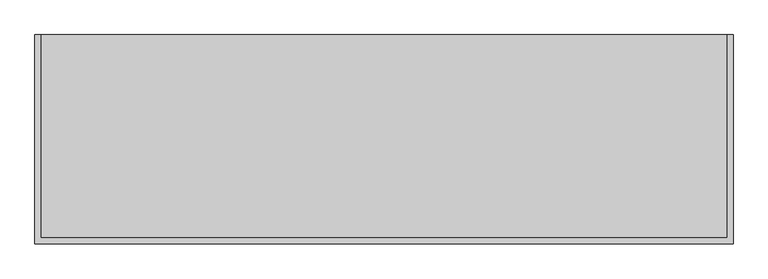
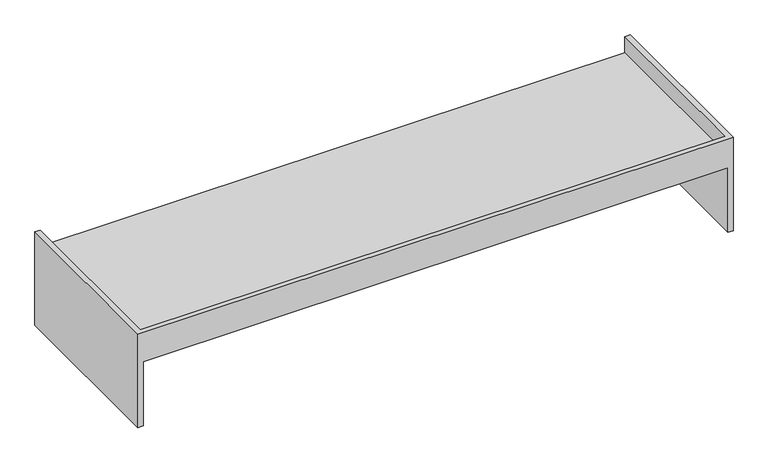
"""IFC4 building model written with IfcOpenShell, lengths in millimetres: furniture geometry, Mueble con faldon sin cajones - lavabo sobreponer : MB8-mueble baño colgado- 1.75cm."""

from ifc_helpers import new_model, si_unit, origin, place, context, project, spatial, faceted_brep, source, transform, mapped, element, save


def furniture_c1e19565(model_context):
    return source(origin(), model_context, "Body", "Brep", [
        faceted_brep([(-750.0, 595.0, 800.0), (-735.0, 595.0, 800.0), (-735.0, 595.0, 750.0), (985.0, 595.0, 750.0), (985.0, 595.0, 800.0), (1000.0, 595.0, 800.0), (1000.0, 595.0, 510.0), (-750.0, 595.0, 510.0), (-750.0, 70.0, 800.0), (1000.0, 70.0, 800.0), (985.0, 85.0, 800.0), (-735.0, 85.0, 800.0), (-735.0, 85.0, 750.0), (-750.0, 70.0, 510.0), (985.0, 85.0, 750.0), (-735.0, 70.0, 510.0), (-735.0, 70.0, 710.0), (985.0, 70.0, 710.0), (985.0, 70.0, 510.0), (1000.0, 70.0, 510.0), (985.0, 580.0, 510.0), (-735.0, 580.0, 510.0), (-735.0, 580.0, 710.0), (985.0, 580.0, 710.0)], [[[0, 1, 2, 3, 4, 5, 6, 7]], [[1, 0, 8, 9, 5, 4, 10, 11]], [[2, 1, 11, 12]], [[0, 7, 13, 8]], [[11, 10, 14, 12]], [[9, 8, 13, 15, 16, 17, 18, 19]], [[10, 4, 3, 14]], [[6, 5, 9, 19]], [[15, 13, 7, 6, 19, 18, 20, 21]], [[16, 15, 21, 22]], [[21, 20, 23, 22]], [[20, 18, 17, 23]], [[3, 2, 12, 14]], [[17, 16, 22, 23]]]),
    ])


if __name__ == "__main__":
    model = new_model("IFC4")
    model_context = context("Model", 3, world=origin())
    ifc_project = project(units=[si_unit("LENGTHUNIT", "METRE", prefix="MILLI")], contexts=[model_context])
    site = spatial("IfcSite", under=ifc_project)
    building = spatial("IfcBuilding", under=site)
    placement = place(None, origin())
    furniture_shape = furniture_c1e19565(model_context)
    element("IfcFurniture", 1, ObjectType="Mueble con faldon sin cajones - lavabo sobreponer : MB8-mueble baño colgado- 1.75cm", at=placement, inside=building, context=model_context, shape_type="MappedRepresentation", body=[
        mapped(furniture_shape, transform((0.0, 0.0, 0.0), x_axis=(1.0, 0.0, 0.0), y_axis=(0.0, 1.0, 0.0), z_axis=(0.0, 0.0, 1.0))),
    ])
    save(model, "model.ifc")
